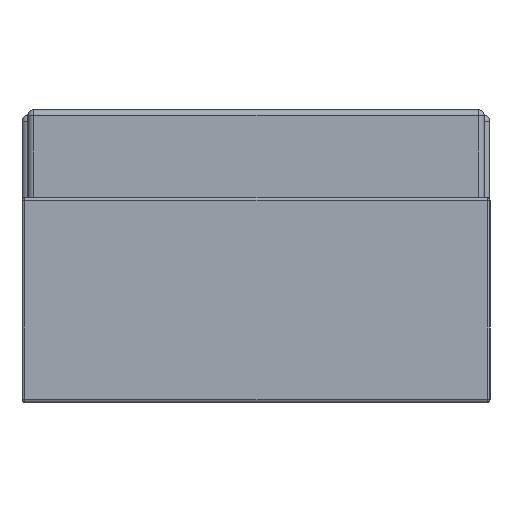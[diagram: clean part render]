
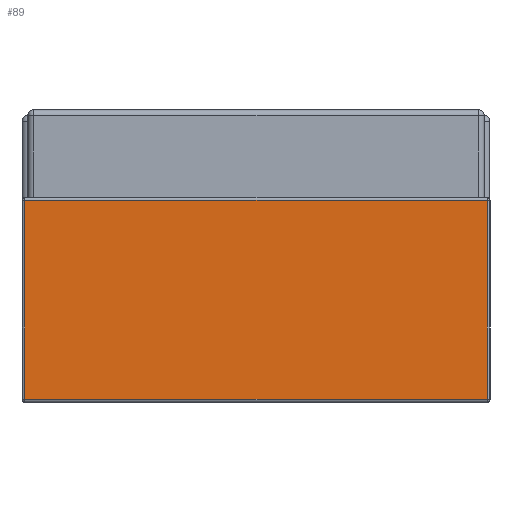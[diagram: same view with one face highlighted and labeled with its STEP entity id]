
A CAD part, left-side view. The second image highlights one B-rep face of the part: STEP entity #89.
In plain terms, the highlighted planar face has unit normal (-1, 0, 0).
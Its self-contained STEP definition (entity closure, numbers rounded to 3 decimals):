
#89=ADVANCED_FACE('',(#810),#812,.T.);
#810=FACE_BOUND('',#811,.T.);
#811=EDGE_LOOP('',(#1541,#1542,#1543,#1544));
#812=PLANE('',#813);
#813=AXIS2_PLACEMENT_3D('',#814,#815,#816);
#814=CARTESIAN_POINT('',(-0.8,0.4,0.));
#815=DIRECTION('',(-1.,0.,0.));
#816=DIRECTION('',(0.,-1.,0.));
#1541=ORIENTED_EDGE('',*,*,#1990,.T.);
#1542=ORIENTED_EDGE('',*,*,#1991,.T.);
#1543=ORIENTED_EDGE('',*,*,#1992,.F.);
#1544=ORIENTED_EDGE('',*,*,#1993,.F.);
#1990=EDGE_CURVE('',#2248,#2249,#2250,.T.);
#1991=EDGE_CURVE('',#2249,#2251,#2252,.T.);
#1992=EDGE_CURVE('',#2253,#2251,#2254,.T.);
#1993=EDGE_CURVE('',#2248,#2253,#2255,.T.);
#2248=VERTEX_POINT('',#2539);
#2249=VERTEX_POINT('',#2540);
#2250=LINE('',#2541,#2542);
#2251=VERTEX_POINT('',#2544);
#2252=LINE('',#2545,#2546);
#2253=VERTEX_POINT('',#2548);
#2254=LINE('',#2549,#2550);
#2255=LINE('',#2552,#2553);
#2539=CARTESIAN_POINT('',(-0.8,0.395,0.005));
#2540=CARTESIAN_POINT('',(-0.8,-0.395,0.005));
#2541=CARTESIAN_POINT('',(-0.8,0.395,0.005));
#2542=VECTOR('',#2543,1.);
#2543=DIRECTION('',(0.,-1.,0.));
#2544=CARTESIAN_POINT('',(-0.8,-0.395,0.345));
#2545=CARTESIAN_POINT('',(-0.8,-0.395,0.005));
#2546=VECTOR('',#2547,1.);
#2547=DIRECTION('',(0.,0.,1.));
#2548=CARTESIAN_POINT('',(-0.8,0.395,0.345));
#2549=CARTESIAN_POINT('',(-0.8,0.395,0.345));
#2550=VECTOR('',#2551,1.);
#2551=DIRECTION('',(0.,-1.,0.));
#2552=CARTESIAN_POINT('',(-0.8,0.395,0.005));
#2553=VECTOR('',#2554,1.);
#2554=DIRECTION('',(0.,0.,1.));
